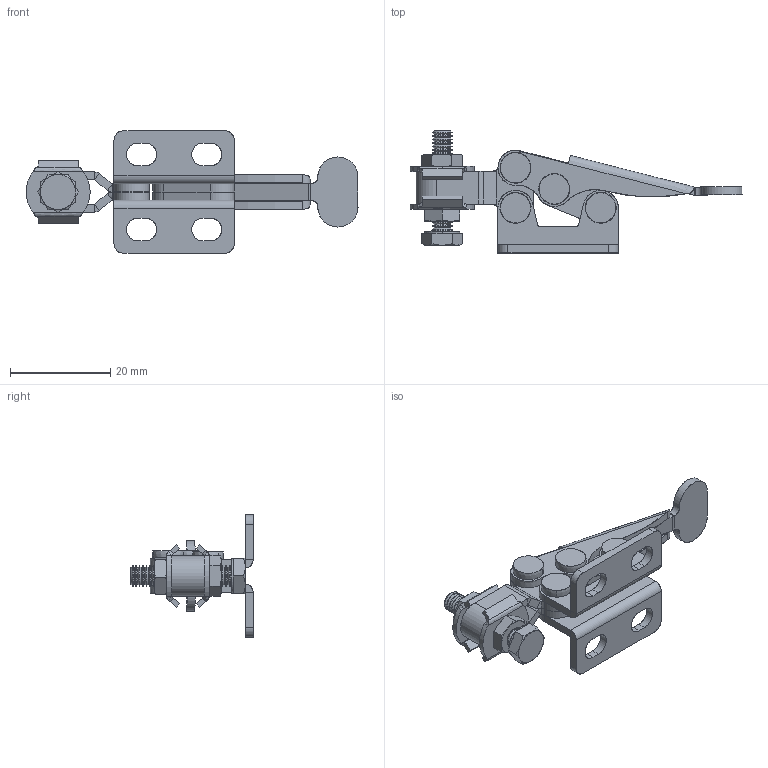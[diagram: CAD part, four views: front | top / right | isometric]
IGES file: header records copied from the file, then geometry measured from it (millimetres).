
Start section: SolidWorks IGES file using analytic representation for surfaces
Global section: file name: \\BARTOP_SV6\share\SOLIDWORKS\工具事業部\坂入用\受け渡し\ISK-040\ISK-040.IGS; native system: SolidWorks 2015; preprocessor: SolidWorks 2015; author: SOLID02; date: 150629.184202; units: millimetre
Bounding box: 66.22 x 24.36 x 24.5 mm (x, y, z)
Surface area: 7126.7 mm2 (no closed solid volume)
Topology: 0 solids, 0 shells, 539 faces, 5833 edges, 5833 vertices
Faces by surface type: revolution 356, bspline 183
